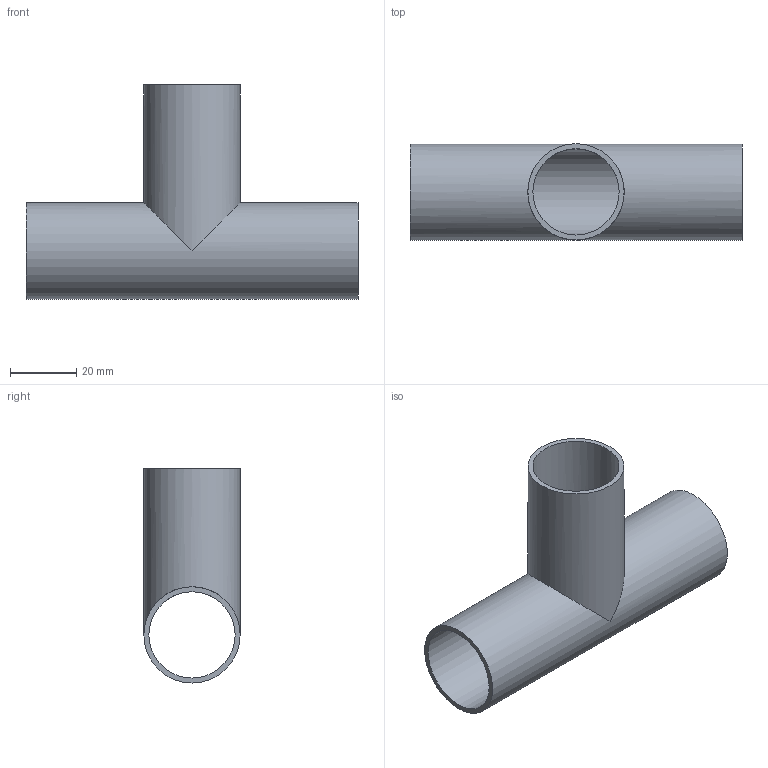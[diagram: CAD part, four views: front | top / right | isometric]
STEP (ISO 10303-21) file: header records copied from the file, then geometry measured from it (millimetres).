
FILE_DESCRIPTION(('FreeCAD Model'),'2;1');
FILE_NAME( '/home/martin/Documents/proyect/accesorios/stp/te_long_DN-25.step', '2018-01-07T08:11:23',('Author'),(''), 'Open CASCADE STEP processor 6.8','FreeCAD','Unknown');
FILE_SCHEMA(('AUTOMOTIVE_DESIGN_CC2 { 1 2 10303 214 -1 1 5 4 }'));
Length unit declared in the file: millimetre
Products named in the file (1): te_long_DN-25
Bounding box: 100 x 29 x 64.5 mm (x, y, z)
Volume: 17167.6 mm3; surface area: 23272.9 mm2
Topology: 1 solids, 1 shells, 7 faces, 16 edges, 12 vertices
Faces by surface type: cylinder 4, plane 3
Full cylindrical faces by diameter (mm): 26 x2, 29 x2
Entity records: 531 total; most frequent: CARTESIAN_POINT 172, DIRECTION 64, ORIENTED_EDGE 32, PCURVE 32, DEFINITIONAL_REPRESENTATION 32, AXIS2_PLACEMENT_3D 20, LINE 18, VECTOR 18
